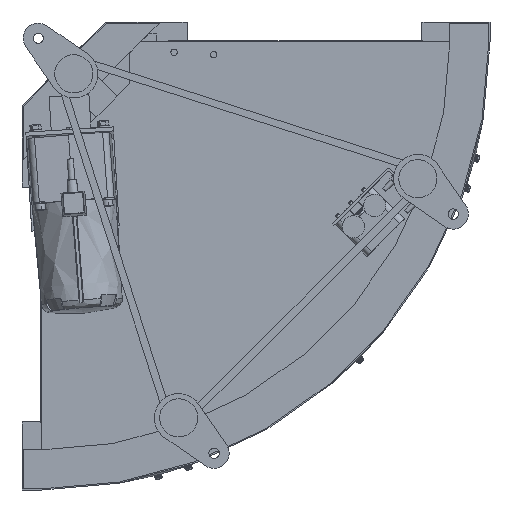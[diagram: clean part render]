
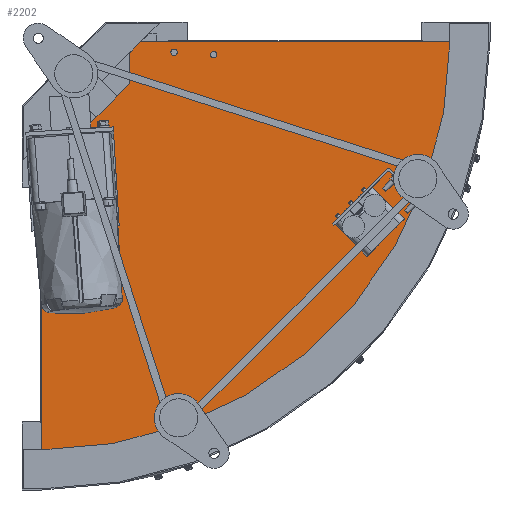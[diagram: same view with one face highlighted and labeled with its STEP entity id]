
A CAD part, front view. The second image highlights one B-rep face of the part: STEP entity #2202.
In plain terms, the highlighted planar face has unit normal (0, -1, 0).
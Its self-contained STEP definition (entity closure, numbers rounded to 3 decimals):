
#2202=ADVANCED_FACE('',(#7787,#7788,#7789,#7790,#7791),#7786,.F.);
#7786=PLANE('',#16124);
#7787=FACE_OUTER_BOUND('',#16125,.T.);
#7788=FACE_BOUND('',#16126,.T.);
#7789=FACE_BOUND('',#16127,.T.);
#7790=FACE_BOUND('',#16128,.T.);
#7791=FACE_BOUND('',#16129,.T.);
#16121=CARTESIAN_POINT('',(-10.,-142.5,-522.5));
#16122=DIRECTION('',(0.,1.,0.));
#16123=DIRECTION('',(0.,0.,1.));
#16124=AXIS2_PLACEMENT_3D('',#16121,#16122,#16123);
#16125=EDGE_LOOP('',(#23071,#23072,#23073,#23074,#23075,#23076,#23077,#23078));
#16126=EDGE_LOOP('',(#23079));
#16127=EDGE_LOOP('',(#23080));
#16128=EDGE_LOOP('',(#23081,#23082));
#16129=EDGE_LOOP('',(#23083,#23084));
#23071=ORIENTED_EDGE('',*,*,#26542,.F.);
#23072=ORIENTED_EDGE('',*,*,#26545,.F.);
#23073=ORIENTED_EDGE('',*,*,#26724,.F.);
#23074=ORIENTED_EDGE('',*,*,#26881,.F.);
#23075=ORIENTED_EDGE('',*,*,#26891,.F.);
#23076=ORIENTED_EDGE('',*,*,#26883,.F.);
#23077=ORIENTED_EDGE('',*,*,#26892,.F.);
#23078=ORIENTED_EDGE('',*,*,#26538,.F.);
#23079=ORIENTED_EDGE('',*,*,#26555,.F.);
#23080=ORIENTED_EDGE('',*,*,#26547,.F.);
#23081=ORIENTED_EDGE('',*,*,#26561,.F.);
#23082=ORIENTED_EDGE('',*,*,#26559,.F.);
#23083=ORIENTED_EDGE('',*,*,#26553,.F.);
#23084=ORIENTED_EDGE('',*,*,#26551,.F.);
#26538=EDGE_CURVE('',#35071,#35078,#35079,.T.);
#26542=EDGE_CURVE('',#35098,#35071,#35105,.T.);
#26545=EDGE_CURVE('',#35118,#35098,#35125,.T.);
#26547=EDGE_CURVE('',#35138,#35138,#35139,.T.);
#26551=EDGE_CURVE('',#35165,#35166,#35167,.T.);
#26553=EDGE_CURVE('',#35166,#35165,#35179,.T.);
#26555=EDGE_CURVE('',#35192,#35192,#35193,.T.);
#26559=EDGE_CURVE('',#35219,#35220,#35221,.T.);
#26561=EDGE_CURVE('',#35220,#35219,#35233,.T.);
#26724=EDGE_CURVE('',#36341,#35118,#36342,.T.);
#26881=EDGE_CURVE('',#37382,#36341,#37389,.T.);
#26883=EDGE_CURVE('',#37395,#37402,#37403,.T.);
#26891=EDGE_CURVE('',#37402,#37382,#37453,.T.);
#26892=EDGE_CURVE('',#35078,#37395,#37459,.T.);
#35071=VERTEX_POINT('',#50029);
#35078=VERTEX_POINT('',#50033);
#35079=LINE('',#50034,#50035);
#35098=VERTEX_POINT('',#50044);
#35105=LINE('',#50048,#50049);
#35118=VERTEX_POINT('',#50055);
#35125=LINE('',#50059,#50060);
#35138=VERTEX_POINT('',#50067);
#35139=CIRCLE('',#50071,4.);
#35165=VERTEX_POINT('',#50084);
#35166=VERTEX_POINT('',#50085);
#35167=CIRCLE('',#50089,4.);
#35179=CIRCLE('',#50095,4.);
#35192=VERTEX_POINT('',#50101);
#35193=CIRCLE('',#50105,4.);
#35219=VERTEX_POINT('',#50118);
#35220=VERTEX_POINT('',#50119);
#35221=CIRCLE('',#50123,4.);
#35233=CIRCLE('',#50129,4.);
#36341=VERTEX_POINT('',#51836);
#36342=LINE('',#51837,#51838);
#37382=VERTEX_POINT('',#52702);
#37389=LINE('',#52706,#52707);
#37395=VERTEX_POINT('',#52709);
#37402=VERTEX_POINT('',#52713);
#37403=LINE('',#52714,#52715);
#37453=CIRCLE('',#52743,512.5);
#37459=LINE('',#52744,#52745);
#50029=CARTESIAN_POINT('',(110.,-142.5,-52.635));
#50033=CARTESIAN_POINT('',(110.,-142.5,-14.));
#50034=CARTESIAN_POINT('',(110.,-142.5,-52.635));
#50035=VECTOR('',#50036,38.635);
#50036=DIRECTION('',(0.,0.,1.));
#50044=CARTESIAN_POINT('',(52.635,-142.5,-110.));
#50048=CARTESIAN_POINT('',(52.635,-142.5,-110.));
#50049=VECTOR('',#50050,81.127);
#50050=DIRECTION('',(0.707,0.,0.707));
#50055=CARTESIAN_POINT('',(14.,-142.5,-110.));
#50059=CARTESIAN_POINT('',(14.,-142.5,-110.));
#50060=VECTOR('',#50061,38.635);
#50061=DIRECTION('',(1.,0.,0.));
#50067=CARTESIAN_POINT('',(13.,-142.5,-162.));
#50068=CARTESIAN_POINT('',(13.,-142.5,-166.));
#50069=DIRECTION('',(0.,-1.,0.));
#50070=DIRECTION('',(0.,0.,1.));
#50071=AXIS2_PLACEMENT_3D('',#50068,#50069,#50070);
#50084=CARTESIAN_POINT('',(215.91,-142.5,-20.));
#50085=CARTESIAN_POINT('',(215.91,-142.5,-12.));
#50086=CARTESIAN_POINT('',(215.91,-142.5,-16.));
#50087=DIRECTION('',(0.,-1.,0.));
#50088=DIRECTION('',(0.,0.,-1.));
#50089=AXIS2_PLACEMENT_3D('',#50086,#50087,#50088);
#50092=CARTESIAN_POINT('',(215.91,-142.5,-16.));
#50093=DIRECTION('',(0.,-1.,0.));
#50094=DIRECTION('',(0.,0.,-1.));
#50095=AXIS2_PLACEMENT_3D('',#50092,#50093,#50094);
#50101=CARTESIAN_POINT('',(16.,-142.5,-211.91));
#50102=CARTESIAN_POINT('',(16.,-142.5,-215.91));
#50103=DIRECTION('',(0.,-1.,0.));
#50104=DIRECTION('',(0.,0.,1.));
#50105=AXIS2_PLACEMENT_3D('',#50102,#50103,#50104);
#50118=CARTESIAN_POINT('',(166.,-142.5,-17.));
#50119=CARTESIAN_POINT('',(166.,-142.5,-9.));
#50120=CARTESIAN_POINT('',(166.,-142.5,-13.));
#50121=DIRECTION('',(0.,-1.,0.));
#50122=DIRECTION('',(0.,0.,-1.));
#50123=AXIS2_PLACEMENT_3D('',#50120,#50121,#50122);
#50126=CARTESIAN_POINT('',(166.,-142.5,-13.));
#50127=DIRECTION('',(0.,-1.,0.));
#50128=DIRECTION('',(0.,0.,-1.));
#50129=AXIS2_PLACEMENT_3D('',#50126,#50127,#50128);
#51836=CARTESIAN_POINT('',(0.,-142.5,-124.));
#51837=CARTESIAN_POINT('',(0.,-142.5,-124.));
#51838=VECTOR('',#51839,19.799);
#51839=DIRECTION('',(0.707,0.,0.707));
#52702=CARTESIAN_POINT('',(0.,-142.5,-512.5));
#52706=CARTESIAN_POINT('',(0.,-142.5,-512.5));
#52707=VECTOR('',#52708,388.5);
#52708=DIRECTION('',(0.,0.,1.));
#52709=CARTESIAN_POINT('',(124.,-142.5,0.));
#52713=CARTESIAN_POINT('',(512.5,-142.5,0.));
#52714=CARTESIAN_POINT('',(124.,-142.5,0.));
#52715=VECTOR('',#52716,388.5);
#52716=DIRECTION('',(1.,0.,0.));
#52740=CARTESIAN_POINT('',(0.,-142.5,0.));
#52741=DIRECTION('',(0.,1.,0.));
#52742=DIRECTION('',(0.,0.,-1.));
#52743=AXIS2_PLACEMENT_3D('',#52740,#52741,#52742);
#52744=CARTESIAN_POINT('',(110.,-142.5,-14.));
#52745=VECTOR('',#52746,19.799);
#52746=DIRECTION('',(0.707,0.,0.707));
